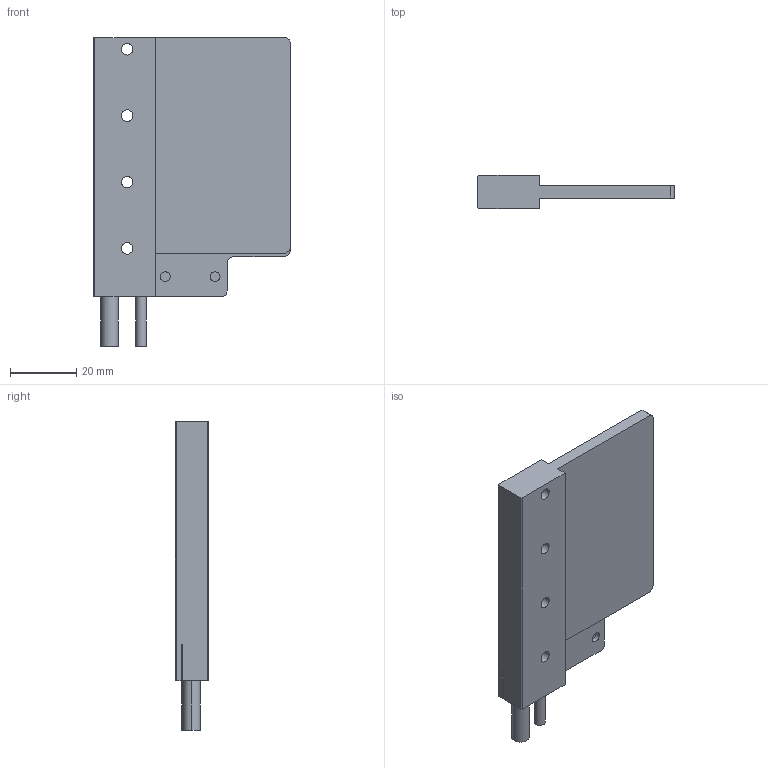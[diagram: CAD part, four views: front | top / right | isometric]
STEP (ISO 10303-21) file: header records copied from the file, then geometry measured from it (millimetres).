
FILE_DESCRIPTION (( 'STEP AP203' ), '1' );
FILE_NAME ('IL3-59 assembly 3D.STEP', '2022-10-28T05:48:20', ( '' ), ( '' ), 'SwSTEP 2.0', 'SolidWorks 2021', '' );
FILE_SCHEMA (( 'CONFIG_CONTROL_DESIGN' ));
Length unit declared in the file: millimetre
Products named in the file (1): IL3-59 assembly 3D
Bounding box: 59.1 x 10 x 93 mm (x, y, z)
Volume: 24911 mm3; surface area: 12236.5 mm2
Topology: 1 solids, 3 shells, 98 faces, 247 edges, 159 vertices
Faces by surface type: plane 46, cylinder 42, cone 10
Entity records: 3023 total; most frequent: DIRECTION 532, CARTESIAN_POINT 513, ORIENTED_EDGE 486, EDGE_CURVE 243, AXIS2_PLACEMENT_3D 194, VERTEX_POINT 159, VECTOR 144, LINE 144
